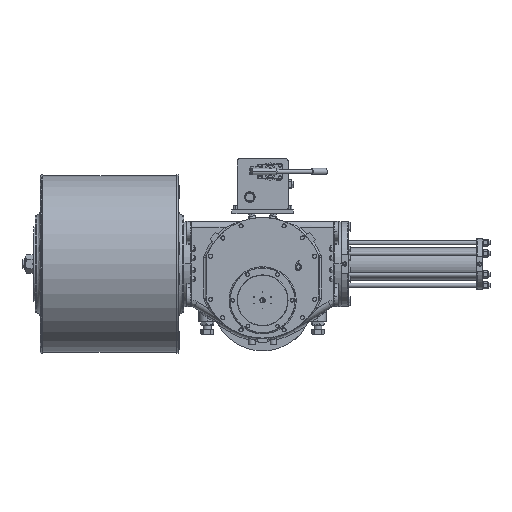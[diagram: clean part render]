
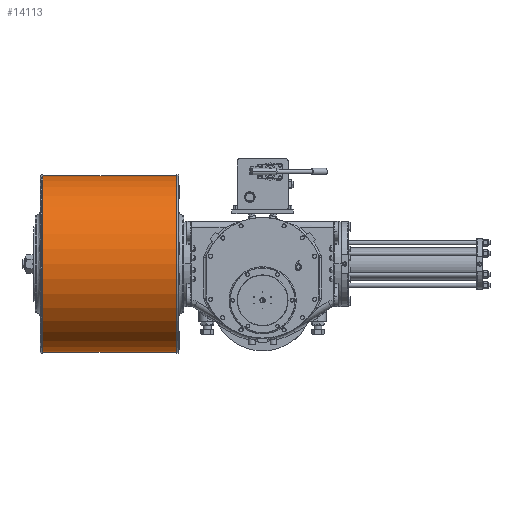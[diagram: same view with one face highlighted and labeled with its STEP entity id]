
A CAD part, top view. The second image highlights one B-rep face of the part: STEP entity #14113.
In plain terms, the highlighted cylindrical face has radius 416 mm (diameter 832 mm), a partial arc.
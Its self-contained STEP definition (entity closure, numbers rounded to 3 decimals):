
#4033 = DIRECTION ( 'NONE',  ( 0., -1., 0. ) ) ;
#4600 = DIRECTION ( 'NONE',  ( -1., 0., 0. ) ) ;
#6240 = EDGE_CURVE ( 'NONE', #98501, #41322, #57260, .T. ) ;
#11142 = VERTEX_POINT ( 'NONE', #112950 ) ;
#14113 = ADVANCED_FACE ( 'NONE', ( #65012 ), #110687, .T. ) ;
#14804 = DIRECTION ( 'NONE',  ( -1., 0., 0. ) ) ;
#17980 = LINE ( 'NONE', #44835, #55096 ) ;
#22173 = LINE ( 'NONE', #77471, #84803 ) ;
#22655 = AXIS2_PLACEMENT_3D ( 'NONE', #45289, #98284, #71511 ) ;
#25608 = ORIENTED_EDGE ( 'NONE', *, *, #88832, .T. ) ;
#30254 = CARTESIAN_POINT ( 'NONE',  ( -405., 171., 138. ) ) ;
#32512 = DIRECTION ( 'NONE',  ( 0., -1., 0. ) ) ;
#37732 = CARTESIAN_POINT ( 'NONE',  ( -405., -245., 138. ) ) ;
#39710 = EDGE_LOOP ( 'NONE', ( #25608, #71742, #105373, #77522 ) ) ;
#40860 = CARTESIAN_POINT ( 'NONE',  ( -1035., -245., 138. ) ) ;
#41322 = VERTEX_POINT ( 'NONE', #40860 ) ;
#44835 = CARTESIAN_POINT ( 'NONE',  ( -405., 587., 138. ) ) ;
#45081 = AXIS2_PLACEMENT_3D ( 'NONE', #30254, #14804, #32512 ) ;
#45289 = CARTESIAN_POINT ( 'NONE',  ( -1035., 171., 138. ) ) ;
#50916 = AXIS2_PLACEMENT_3D ( 'NONE', #72545, #4600, #4033 ) ;
#55096 = VECTOR ( 'NONE', #106978, 1000. ) ;
#55662 = VERTEX_POINT ( 'NONE', #37732 ) ;
#57260 = CIRCLE ( 'NONE', #22655, 416. ) ;
#60329 = DIRECTION ( 'NONE',  ( -1., 0., 0. ) ) ;
#65012 = FACE_OUTER_BOUND ( 'NONE', #39710, .T. ) ;
#71511 = DIRECTION ( 'NONE',  ( 0., -1., 0. ) ) ;
#71742 = ORIENTED_EDGE ( 'NONE', *, *, #77968, .T. ) ;
#72545 = CARTESIAN_POINT ( 'NONE',  ( -405., 171., 138. ) ) ;
#76297 = CARTESIAN_POINT ( 'NONE',  ( -1035., 587., 138. ) ) ;
#77471 = CARTESIAN_POINT ( 'NONE',  ( -405., -245., 138. ) ) ;
#77522 = ORIENTED_EDGE ( 'NONE', *, *, #108600, .F. ) ;
#77968 = EDGE_CURVE ( 'NONE', #11142, #98501, #17980, .T. ) ;
#84803 = VECTOR ( 'NONE', #60329, 1000. ) ;
#88832 = EDGE_CURVE ( 'NONE', #55662, #11142, #112883, .T. ) ;
#98284 = DIRECTION ( 'NONE',  ( 1., 0., 0. ) ) ;
#98501 = VERTEX_POINT ( 'NONE', #76297 ) ;
#105373 = ORIENTED_EDGE ( 'NONE', *, *, #6240, .T. ) ;
#106978 = DIRECTION ( 'NONE',  ( -1., 0., 0. ) ) ;
#108600 = EDGE_CURVE ( 'NONE', #55662, #41322, #22173, .T. ) ;
#110687 = CYLINDRICAL_SURFACE ( 'NONE', #45081, 416. ) ;
#112883 = CIRCLE ( 'NONE', #50916, 416. ) ;
#112950 = CARTESIAN_POINT ( 'NONE',  ( -405., 587., 138. ) ) ;
